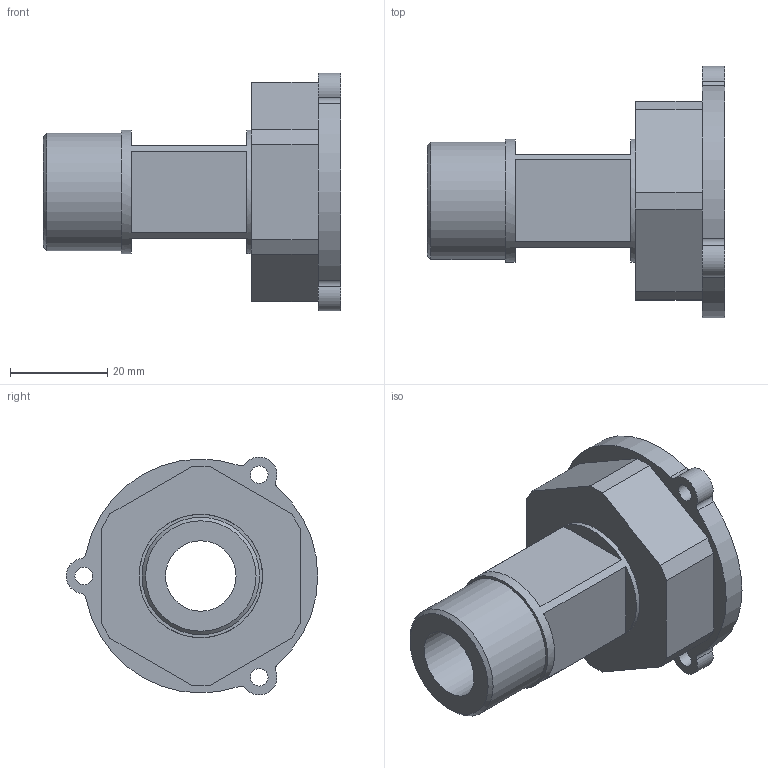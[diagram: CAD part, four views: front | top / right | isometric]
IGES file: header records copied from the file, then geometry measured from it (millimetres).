
Global section: file name: 0358906007.ipt; native system: Autodesk Inventor 2015; preprocessor: unknown; author: KIM; date: 20170618.093057; units: millimetre
Bounding box: 61 x 51.6 x 48.79 mm (x, y, z)
Volume: 25623.6 mm3; surface area: 13181.7 mm2
Topology: 1 solids, 1 shells, 50 faces, 126 edges, 85 vertices
Faces by surface type: plane 30, revolution 11, cylinder 8, cone 1
Full cylindrical faces by diameter (mm): 24.117 x1, 25.323 x1
